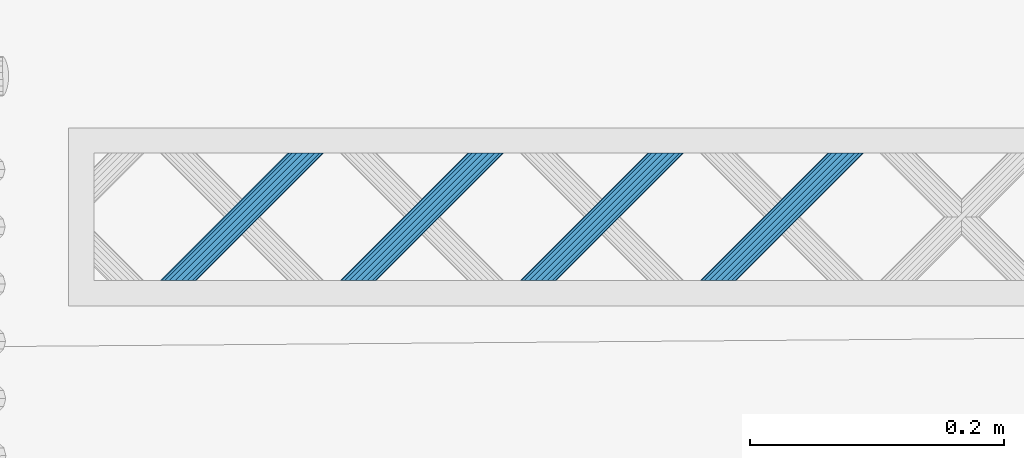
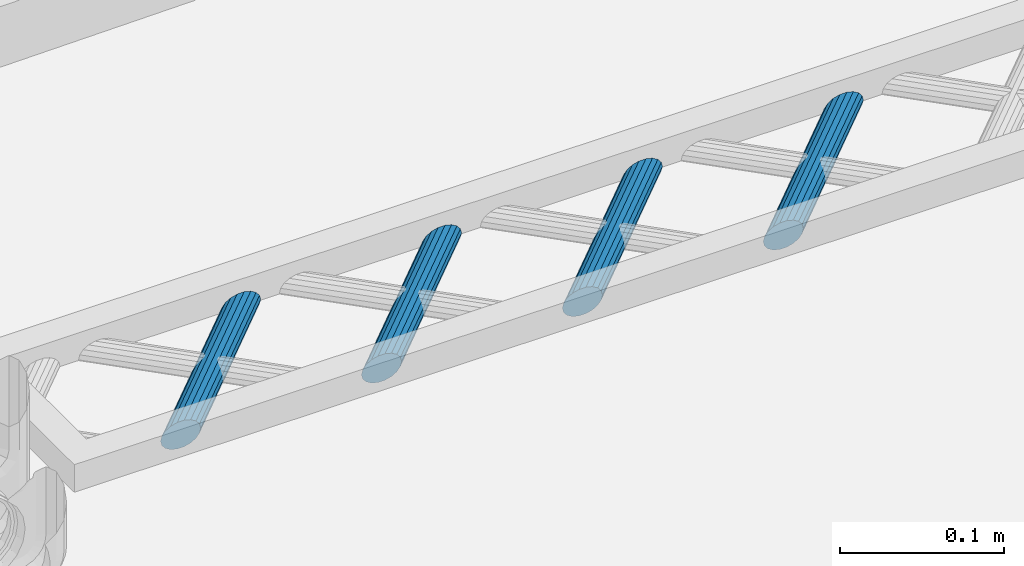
# One storey, part 65 of 133: 4 members, 1 element without a shape of its own.
"""IFC2X3 building model written with IfcOpenShell, lengths in centimetres."""

from ifc_helpers import new_model, entity, si_unit, converted_unit, direction, frame, origin, origin_with_axes, place, context, subcontext, project, spatial, faceted_brep, material, type_object, element, aggregate, save


model = new_model("IFC2X3")

# Units and contexts
model_context = context("Model", 3, precision=0.0001, world=origin(), true_north=direction((0.225632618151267, 0.974212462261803, 0.0)))
body_context = subcontext(model_context, "Body", "Model", "MODEL_VIEW")
ifc_project = project(units=[si_unit("LENGTHUNIT", "METRE", prefix="CENTI"), si_unit("AREAUNIT", "SQUARE_METRE", prefix="CENTI"), si_unit("VOLUMEUNIT", "CUBIC_METRE", prefix="CENTI"), converted_unit("PLANEANGLEUNIT", "DEGREE", entity("IfcRatioMeasure", 0.0174532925), si_unit("PLANEANGLEUNIT", "RADIAN"), dimensions=[0, 0, 0, 0, 0, 0, 0])], contexts=[model_context])

# Site, building, storey
site_placement = place(None, origin_with_axes())
site = spatial("IfcSite", under=ifc_project, at=site_placement, Name="Default Site", CompositionType="ELEMENT")
building_placement = place(site_placement, origin_with_axes())
building = spatial("IfcBuilding", under=site, at=building_placement, Name="Default Building", CompositionType="ELEMENT")
storey_placement = place(building_placement, frame((0.0, 0.0, -291.400371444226), z_axis=(0.0, 0.0, 1.0), x_axis=(1.0, 0.0, 0.0)))
storey = spatial("IfcBuildingStorey", under=building, at=storey_placement, Name="Rez-de-Jardin", CompositionType="ELEMENT", Elevation=-291.400371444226)

# Assembly, members
building_element_proxy_type = type_object("IfcBuildingElementProxyType", Name="Type Object", PredefinedType="NOTDEFINED")
assembly_placement = place(storey_placement, frame((-251.995147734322, 552.177521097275, 0.0), z_axis=(0.0, 1.0, -2.38697950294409e-15), x_axis=(1.0, 0.0, 0.0)))
assembly = element("IfcElementAssembly", 1, at=assembly_placement, inside=storey, type_object=building_element_proxy_type, Name="Panneau 92047", ObjectType="Precast panel", PredefinedType="USERDEFINED")
ifc_material = material(Name="Aluminium satiné")
member_1_placement = place(assembly_placement, frame((19.9735864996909, 0.342020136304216, 11.9999997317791), z_axis=(1.16937634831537e-15, -1.43218776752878e-15, 1.0), x_axis=(0.632455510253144, -0.774596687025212, -1.84894641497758e-15)))
member_1 = element("IfcMember", 2, at=member_1_placement, material=ifc_material, Name="4294966753", context=body_context, shape_type="Brep", body=[
    faceted_brep([(2.35922392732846e-14, -5.82867087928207e-14, 2.91433543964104e-14), (-0.388289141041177, -5.82867087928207e-14, 2.84254285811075e-14), (-0.799165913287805, -0.15024930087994, 2.76657394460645e-14), (-1.18307196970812, -0.43262487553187, 2.6955917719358e-14), (-1.49370326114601, -0.813068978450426, 2.63815771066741e-14), (-1.69359245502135, -1.24569368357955, 2.60119926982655e-14), (-1.75863072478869, -1.67831892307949, 2.58917404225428e-14), (-1.68097287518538, -2.05876302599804, 2.60353256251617e-14), (-1.46998625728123, -2.34113956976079, 2.64254285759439e-14), (-1.15111754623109, -2.49138806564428, 2.70149997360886e-14), (-0.762828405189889, -2.49138806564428, 2.77329255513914e-14), (-0.351951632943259, -2.3411387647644, 2.84926146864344e-14), (0.03195442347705, -2.05876319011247, 2.92024364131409e-14), (0.342585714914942, -1.67831908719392, 2.97767770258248e-14), (0.542474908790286, -1.24569438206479, 3.01463614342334e-14), (0.607513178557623, -0.813069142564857, 3.02666137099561e-14), (0.529855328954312, -0.432625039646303, 3.01230285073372e-14), (0.318868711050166, -0.150248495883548, 2.9732925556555e-14), (-6.00568648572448, -7.89621548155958, -9.99999977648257), (-5.79469939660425, -8.17859144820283, -9.99999977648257), (-5.71704154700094, -8.55903555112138, -9.99999977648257), (-5.78207981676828, -8.99166079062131, -9.99999977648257), (-5.98196901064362, -9.42428549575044, -9.99999977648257), (-6.29260030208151, -9.804729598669, -9.99999977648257), (-6.6765068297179, -10.0871057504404, -9.99999977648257), (-7.08738360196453, -10.2373550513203, -9.99999977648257), (-7.47567274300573, -10.2373550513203, -9.99999977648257), (-7.7945409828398, -10.0871059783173, -9.99999977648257), (-8.00552807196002, -9.80473001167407, -9.99999977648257), (-8.08318592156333, -9.42428590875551, -9.99999977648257), (-8.01814765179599, -8.99166066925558, -9.99999977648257), (-7.81825798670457, -8.55903538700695, -9.99999977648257), (-7.50762669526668, -8.17859128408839, -9.99999977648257), (-7.12372063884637, -7.89621570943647, -9.99999977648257), (-6.71284386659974, -7.74596640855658, -9.99999977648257), (-6.32455472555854, -7.74596640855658, -9.99999977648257), (0.318868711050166, -0.150248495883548, 2.91433543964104e-14), (0.529855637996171, -0.432624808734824, -3.74318464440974e-07), (-5.79469923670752, -8.17859132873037, -9.99999997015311), (-6.00568633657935, -7.89621537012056, -9.99999995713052), (0.529855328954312, -0.432625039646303, 2.91433543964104e-14), (0.607513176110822, -0.813069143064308, 1.93439639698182e-09), (-5.71704172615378, -8.55903558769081, -9.99999963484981), (-5.79469957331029, -8.17859148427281, -9.99999963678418), (0.607513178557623, -0.813069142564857, 3.05311331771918e-14), (0.542475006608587, -1.24569439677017, -5.04749520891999e-08), (-5.78207986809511, -8.99166078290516, -9.99999974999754), (-5.71704169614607, -8.55903552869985, -9.99999969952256), (0.542474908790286, -1.24569438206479, 2.91433543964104e-14), (0.342585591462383, -1.67831903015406, 3.38953946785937e-08), (-5.98196921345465, -9.4242854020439, -9.9999997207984), (-5.78207989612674, -8.99166075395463, -9.99999975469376), (0.342585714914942, -1.67831908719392, 2.91433543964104e-14), (0.0319544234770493, -2.05876319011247, 2.91433543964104e-14), (0.03195442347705, -2.05876319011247, 2.91433543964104e-14), (-0.351951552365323, -2.34113887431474, 3.3895392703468e-08), (-6.67650680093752, -10.087105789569, -9.99999976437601), (-6.29260025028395, -9.80472966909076, -9.99999975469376), (-0.351951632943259, -2.3411387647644, 2.77555756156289e-14), (-0.76282843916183, -2.49138797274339, -5.04749531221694e-08), (-7.08738368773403, -10.2373548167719, -9.99999990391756), (-6.67650688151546, -10.087105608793, -9.99999985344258), (-0.762828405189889, -2.49138806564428, 2.77555756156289e-14), (-1.15111754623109, -2.49138806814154, 1.93439265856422e-09), (-7.47567274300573, -10.2373548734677, -9.99999991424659), (-7.08738360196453, -10.2373548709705, -9.99999991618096), (-1.15111754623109, -2.49138806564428, 2.63677968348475e-14), (-1.4699860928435, -2.34113922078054, -3.74318467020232e-07), (-7.79454089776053, -10.0871057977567, -9.99999997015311), (-7.47567266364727, -10.2373548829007, -9.99999995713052), (-1.46998625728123, -2.34113956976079, 2.63677968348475e-14), (-1.68097318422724, -2.05876325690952, 3.74318519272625e-07), (-8.00552823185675, -9.80473013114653, -9.99999958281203), (-7.79454113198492, -10.0871060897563, -9.99999959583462), (-1.68097287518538, -2.05876302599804, 2.63677968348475e-14), (-1.75863072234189, -1.67831892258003, -1.93434067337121e-09), (-8.0831857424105, -9.42428587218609, -9.99999991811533), (-8.00552789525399, -9.80472997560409, -9.99999991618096), (-1.75863072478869, -1.67831892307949, 2.4980018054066e-14), (-1.69359255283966, -1.24569366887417, 5.04750065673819e-08), (-8.01814760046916, -8.99166067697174, -9.9999998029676), (-8.0831857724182, -9.42428593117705, -9.99999985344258), (-1.69359245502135, -1.24569368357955, 2.4980018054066e-14), (-1.49370313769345, -0.813069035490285, -3.3895338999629e-08), (-7.81825794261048, -8.55903540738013, -9.99999978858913), (-8.01814757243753, -8.99166070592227, -9.99999979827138), (-1.49370326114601, -0.813068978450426, 2.63677968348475e-14), (-1.18307196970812, -0.43262487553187, 2.63677968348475e-14), (-7.50762669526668, -8.1785912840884, -9.99999977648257), (-0.799165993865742, -0.150249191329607, -3.38953387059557e-08), (-7.12372066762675, -7.89621567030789, -9.99999978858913), (-7.50762664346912, -8.17859135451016, -9.99999975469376), (-0.799165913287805, -0.15024930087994, 2.63677968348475e-14), (-0.388289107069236, -9.29009488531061e-08, 5.04750084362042e-08), (-6.71284378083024, -7.74596664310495, -9.99999964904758), (-7.12372058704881, -7.89621585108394, -9.99999969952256), (-0.388289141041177, -5.82867087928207e-14, 2.77555756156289e-14), (2.3566541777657e-14, 2.4971978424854e-09, -1.9343371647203e-09), (-6.32455472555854, -7.74596658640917, -9.99999963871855), (-6.71284386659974, -7.74596658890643, -9.99999963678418), (0.318868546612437, -0.150248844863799, 3.74318522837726e-07), (-6.00568657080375, -7.89621566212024, -9.99999958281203), (-6.324554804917, -7.74596657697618, -9.99999959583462)], [[[0, 1, 2, 3, 4, 5, 6, 7, 8, 9, 10, 11, 12, 13, 14, 15, 16, 17]], [[18, 19, 20, 21, 22, 23, 24, 25, 26, 27, 28, 29, 30, 31, 32, 33, 34, 35]], [[36, 37, 38, 39]], [[40, 41, 42, 43]], [[44, 45, 46, 47]], [[48, 49, 50, 51]], [[52, 53, 23, 22]], [[54, 55, 56, 57]], [[58, 59, 60, 61]], [[62, 63, 64, 65]], [[66, 67, 68, 69]], [[70, 71, 72, 73]], [[74, 75, 76, 77]], [[78, 79, 80, 81]], [[82, 83, 84, 85]], [[86, 87, 88, 31]], [[87, 89, 90, 91]], [[92, 93, 94, 95]], [[96, 97, 98, 99]], [[0, 100, 101, 102]]]),
])
member_2_placement = place(assembly_placement, frame((34.1157227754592, 0.342020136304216, 11.9999997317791), z_axis=(1.16937776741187e-15, -1.43218081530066e-15, 1.0), x_axis=(0.632457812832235, -0.774594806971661, -1.84894192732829e-15)))
member_2 = element("IfcMember", 3, at=member_2_placement, material=ifc_material, Name="4294966752", context=body_context, shape_type="Brep", body=[
    faceted_brep([(4.44089209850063e-14, -2.77555756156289e-14, 4.57966997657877e-14), (-0.388290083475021, -3.33066907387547e-14, 4.50787739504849e-14), (-0.799166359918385, -0.150246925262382, 4.43190875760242e-14), (-1.18307325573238, -0.432621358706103, 4.36092660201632e-14), (-1.49370567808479, -0.813064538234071, 4.30349247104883e-14), (-1.69359615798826, -1.2456886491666, 4.2665338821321e-14), (-1.75863665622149, -1.67831484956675, 4.25450827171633e-14), (-1.68097899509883, -2.05875802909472, 4.26886672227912e-14), (-1.46999321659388, -2.34113520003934, 4.3078767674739e-14), (-1.15112495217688, -2.49138464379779, 4.3668336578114e-14), (-0.762836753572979, -2.49138695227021, 4.43862589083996e-14), (-0.351958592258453, -2.34113771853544, 4.51459487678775e-14), (0.0319483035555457, -2.05876328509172, 4.58557703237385e-14), (0.342580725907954, -1.67832010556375, 4.64301116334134e-14), (0.542471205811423, -1.24569599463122, 4.67996975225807e-14), (0.607509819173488, -0.813072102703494, 4.69199501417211e-14), (0.52985404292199, -0.432626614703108, 4.67763691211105e-14), (0.318868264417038, -0.150249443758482, 4.63862686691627e-14), (-6.00571042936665, -7.89619820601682, -9.99999977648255), (-5.7947246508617, -8.17857537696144, -9.99999977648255), (-5.71706793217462, -8.55901971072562, -9.99999977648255), (-5.78210654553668, -8.99164360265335, -9.99999977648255), (-5.98199796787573, -9.42426886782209, -9.99999977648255), (-6.29263039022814, -9.80471204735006, -9.99999977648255), (-6.67653728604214, -10.0870864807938, -9.99999977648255), (-7.08741450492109, -10.2373345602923, -9.99999977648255), (-7.47570364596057, -10.2373334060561, -9.99999977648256), (-7.79457096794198, -10.0870828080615, -9.99999977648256), (-8.00555768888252, -9.80470679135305, -9.99999977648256), (-8.08321440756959, -9.42426245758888, -9.99999977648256), (-8.01817485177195, -8.99163741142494, -9.99999977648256), (-7.81828437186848, -8.55901330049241, -9.99999977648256), (-7.50765194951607, -8.17857012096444, -9.99999977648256), (-7.12374411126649, -7.89619453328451, -9.99999977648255), (-6.71286783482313, -7.74594760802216, -9.99999977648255), (-6.32457869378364, -7.74594876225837, -9.99999977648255), (0.318868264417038, -0.150249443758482, 4.57966997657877e-14), (0.529854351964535, -0.432626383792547, -3.74318447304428e-07), (-5.79472389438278, -8.17857481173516, -10.0000006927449), (-6.00570998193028, -7.8961978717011, -10.0000003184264), (0.52985404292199, -0.432626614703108, 4.57966997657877e-14), (0.607510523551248, -0.813071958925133, -5.56859141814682e-07), (-5.717067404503, -8.55901960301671, -10.0000001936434), (-5.79472412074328, -8.17857526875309, -10.0000001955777), (0.607509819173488, -0.813072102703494, 4.71844785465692e-14), (0.542470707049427, -1.24569591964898, 2.57365111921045e-07), (-5.78210719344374, -8.99164350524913, -9.99999944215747), (-5.71706808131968, -8.55901968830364, -9.99999969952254), (0.542471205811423, -1.24569599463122, 4.57966997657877e-14), (0.342580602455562, -1.67832004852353, 3.38954117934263e-08), (-5.98199785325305, -9.42426892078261, -9.99999980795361), (-5.78210662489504, -8.99164356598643, -9.99999975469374), (0.342580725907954, -1.67832010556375, 4.57966997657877e-14), (0.0319483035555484, -2.05876328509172, 4.44089209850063e-14), (-5.98199796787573, -9.42426886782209, -9.99999977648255), (0.0319483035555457, -2.05876328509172, 4.44089209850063e-14), (-0.351958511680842, -2.34113782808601, 3.38954094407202e-08), (-6.67653736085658, -10.0870863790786, -9.99999980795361), (-6.2926305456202, -9.80471183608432, -9.99999984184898), (-0.351958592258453, -2.34113771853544, 4.44089209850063e-14), (-0.762836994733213, -2.49138629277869, -3.58314984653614e-07), (-7.08741469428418, -10.2373340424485, -10.0000000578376), (-6.67653744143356, -10.0870860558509, -10.0000000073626), (-0.762836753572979, -2.49138695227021, 4.44089209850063e-14), (-1.15112495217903, -2.49138536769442, 5.60727964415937e-07), (-7.47570364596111, -10.2373335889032, -9.9999996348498), (-7.08741450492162, -10.2373347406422, -9.99999963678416), (-1.15112495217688, -2.49138464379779, 4.30211422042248e-14), (-1.46999305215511, -2.34113485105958, -3.74318450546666e-07), (-7.79457088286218, -10.0870826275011, -9.99999997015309), (-7.47570340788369, -10.2373329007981, -10.0000003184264), (-1.46999321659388, -2.34113520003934, 4.16333634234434e-14), (-1.68097930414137, -2.05875826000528, 3.74318534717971e-07), (-8.00555755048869, -9.80470668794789, -9.99999994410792), (-7.79457111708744, -10.0870829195, -9.9999995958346), (-1.68097899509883, -2.05875802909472, 4.30211422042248e-14), (-1.75863594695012, -1.6783147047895, -5.60727878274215e-07), (-8.08321387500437, -9.42426234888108, -10.0000001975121), (-8.0055571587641, -9.8047066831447, -10.0000001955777), (-1.75863665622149, -1.67831484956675, 4.16333634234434e-14), (-1.69359685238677, -1.24568854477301, 3.58315069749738e-07), (-8.01817509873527, -8.99163737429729, -9.99999964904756), (-8.08321455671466, -9.4242624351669, -9.99999969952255), (-1.69359615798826, -1.2456886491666, 4.16333634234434e-14), (-1.4937055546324, -0.813064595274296, -3.38953237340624e-08), (-7.81828401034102, -8.55901346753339, -9.99999987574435), (-8.01817461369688, -8.99163752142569, -9.99999984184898), (-1.49370567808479, -0.813064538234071, 4.16333634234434e-14), (-1.18307325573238, -0.432621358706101, 4.30211422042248e-14), (-1.18307325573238, -0.432621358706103, 4.30211422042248e-14), (-0.799166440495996, -0.15024681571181, -3.38953216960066e-08), (-7.12374414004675, -7.89619449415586, -9.99999978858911), (-7.50765210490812, -8.1785699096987, -9.99999984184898), (-0.799166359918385, -0.150246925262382, 4.30211422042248e-14), (-0.388290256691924, 4.73689498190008e-07, -2.5736502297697e-07), (-6.71286795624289, -7.74594727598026, -9.99999995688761), (-7.12374405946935, -7.89619467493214, -9.99999969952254), (-0.388290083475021, -3.33066907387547e-14, 4.44089209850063e-14), (-2.08521643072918e-12, -7.18902141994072e-07, 5.56859237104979e-07), (-6.32457869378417, -7.74594894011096, -9.99999963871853), (-6.71286783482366, -7.74594778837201, -9.99999963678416), (0.318868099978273, -0.150249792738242, 3.74318537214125e-07), (-6.00571035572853, -7.89619804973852, -9.99999994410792), (-6.32457845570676, -7.7459482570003, -10.0000003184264)], [[[0, 1, 2, 3, 4, 5, 6, 7, 8, 9, 10, 11, 12, 13, 14, 15, 16, 17]], [[18, 19, 20, 21, 22, 23, 24, 25, 26, 27, 28, 29, 30, 31, 32, 33, 34, 35]], [[36, 37, 38, 39]], [[40, 41, 42, 43]], [[44, 45, 46, 47]], [[48, 49, 50, 51]], [[52, 53, 23, 54]], [[55, 56, 57, 58]], [[59, 60, 61, 62]], [[63, 64, 65, 66]], [[67, 68, 69, 70]], [[71, 72, 73, 74]], [[75, 76, 77, 78]], [[79, 80, 81, 82]], [[83, 84, 85, 86]], [[87, 88, 32, 31]], [[89, 90, 91, 92]], [[93, 94, 95, 96]], [[97, 98, 99, 100]], [[0, 101, 102, 103]]]),
])
member_3_placement = place(assembly_placement, frame((48.2578575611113, 0.342020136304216, 11.9999997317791), z_axis=(1.16937492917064e-15, -1.4321947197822e-15, 1.0), x_axis=(0.632453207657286, -0.774598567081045, -1.84895090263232e-15)))
member_3 = element("IfcMember", 4, at=member_3_placement, material=ifc_material, Name="4294966751", context=body_context, shape_type="Brep", body=[
    faceted_brep([(8.32667268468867e-14, -7.21644966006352e-14, -3.19189119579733e-14), (-0.388288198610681, -6.66133814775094e-14, -3.26368377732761e-14), (-0.799165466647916, -0.15025167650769, -3.33965296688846e-14), (-1.18307068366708, -0.432628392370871, -3.41063515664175e-14), (-1.49370084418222, -0.813073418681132, -3.46806914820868e-14), (-1.69358875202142, -1.24569871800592, -3.50502744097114e-14), (-1.75862479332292, -1.67832299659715, -3.51705228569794e-14), (-1.68096675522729, -2.05876802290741, -3.50269369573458e-14), (-1.46997929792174, -2.34114393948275, -3.46368315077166e-14), (-1.1511101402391, -2.49139148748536, -3.40472580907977e-14), (-0.762820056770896, -2.49138917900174, -3.3329328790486e-14), (-0.351944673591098, -2.34113981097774, -3.25696403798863e-14), (0.0319605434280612, -2.05876309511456, -3.18598184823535e-14), (0.342590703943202, -1.6783180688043, -3.12854785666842e-14), (0.54247861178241, -1.24569276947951, -3.09158956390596e-14), (0.607516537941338, -0.813066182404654, -3.07956437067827e-14), (0.529856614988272, -0.432623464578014, -3.09392330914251e-14), (0.318869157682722, -0.150247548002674, -3.13293385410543e-14), (-6.00566254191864, -7.89623275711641, -9.99999977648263), (-5.79467508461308, -8.17860867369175, -9.99999977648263), (-5.71701516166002, -8.55905139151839, -9.99999977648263), (-5.78205308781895, -8.99167797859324, -9.99999977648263), (-5.98194099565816, -9.42430327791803, -9.99999977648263), (-6.2925711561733, -9.80474830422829, -9.99999977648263), (-6.67647637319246, -10.0871250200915, -9.99999977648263), (-7.08735364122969, -10.2373766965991, -9.99999977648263), (-7.47564183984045, -10.2373766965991, -9.99999977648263), (-7.79451099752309, -10.0871291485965, -9.99999977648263), (-8.00549845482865, -9.80475323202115, -9.99999977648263), (-8.08315837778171, -9.42431051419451, -9.99999977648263), (-8.01812045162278, -8.99168392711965, -9.99999977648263), (-7.81823254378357, -8.55905862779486, -9.99999977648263), (-7.50760238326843, -8.17861360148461, -9.99999977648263), (-7.12369716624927, -7.89623688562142, -9.99999977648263), (-6.71281989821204, -7.7459852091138, -9.99999977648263), (-6.32453169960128, -7.74598520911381, -9.99999977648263), (0.318869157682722, -0.150247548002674, -3.19189119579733e-14), (0.529856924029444, -0.432623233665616, -3.7431852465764e-07), (-5.79467492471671, -8.17860855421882, -9.99999997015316), (-6.00566269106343, -7.89623286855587, -9.99999959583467), (0.529856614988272, -0.432623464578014, -3.19189119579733e-14), (0.607515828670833, -0.813066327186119, 5.607278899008e-07), (-5.71701604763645, -8.55905157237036, -9.99999907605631), (-5.79467526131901, -8.17860870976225, -9.99999963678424), (0.607516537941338, -0.813066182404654, -3.19189119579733e-14), (0.542479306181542, -1.24569287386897, -3.58315060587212e-07), (-5.78205254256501, -8.99167806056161, -10.0000000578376), (-5.71701531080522, -8.5590513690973, -9.99999969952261), (0.54247861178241, -1.24569276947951, -3.19189119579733e-14), (0.342590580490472, -1.6783180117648, 3.38953340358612e-08), (-5.98194119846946, -9.42430318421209, -9.99999972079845), (-5.78205316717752, -8.99167794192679, -9.99999975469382), (0.342590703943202, -1.6783180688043, -3.19189119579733e-14), (0.0319605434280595, -2.05876309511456, -3.33066907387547e-14), (0.0319605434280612, -2.05876309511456, -3.33066907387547e-14), (-0.351944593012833, -2.34113992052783, 3.38953326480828e-08), (-6.67647624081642, -10.0871252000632, -9.99999972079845), (-6.29257110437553, -9.8047483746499, -9.99999975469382), (-0.351944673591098, -2.34113981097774, -3.33066907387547e-14), (-0.762819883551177, -2.49138965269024, 2.57365033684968e-07), (-7.08735383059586, -10.2373761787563, -10.0000000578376), (-6.67647632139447, -10.0871251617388, -9.99999969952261), (-0.762820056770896, -2.49138917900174, -3.33066907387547e-14), (-1.15111014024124, -2.49139076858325, -5.56859223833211e-07), (-7.47564183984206, -10.2373761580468, -10.0000001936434), (-7.08735364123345, -10.2373754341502, -10.0000007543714), (-1.1511101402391, -2.49139148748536, -3.60822483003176e-14), (-1.46997913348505, -2.34114359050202, -3.74318528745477e-07), (-7.79451091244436, -10.0871289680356, -9.99999997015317), (-7.47564191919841, -10.2373768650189, -9.99999959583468), (-1.46997929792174, -2.34114393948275, -3.60822483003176e-14), (-1.68096706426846, -2.05876825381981, 3.7431845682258e-07), (-8.00549891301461, -9.80475357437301, -9.99999922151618), (-7.79451114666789, -10.087129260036, -9.99999959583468), (-1.68096675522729, -2.05876802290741, -3.60822483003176e-14), (-1.75862549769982, -1.6783231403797, 5.56859151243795e-07), (-8.08315784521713, -9.42431040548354, -10.0000001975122), (-8.00549863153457, -9.80475326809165, -9.99999963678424), (-1.75862479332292, -1.67832299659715, -3.60822483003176e-14), (-1.69358825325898, -1.2456987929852, -2.57365100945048e-07), (-8.01812010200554, -8.99168397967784, -9.99999995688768), (-8.08315733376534, -9.42431067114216, -10.0000003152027), (-1.69358875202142, -1.24569871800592, -3.60822483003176e-14), (-1.49370072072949, -0.813073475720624, -3.38954020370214e-08), (-7.81823249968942, -8.55905864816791, -9.99999978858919), (-8.01812053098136, -8.99168389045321, -9.99999975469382), (-1.49370084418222, -0.813073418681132, -3.60822483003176e-14), (-1.18307068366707, -0.432628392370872, -3.46944695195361e-14), (-1.18307068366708, -0.432628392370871, -3.46944695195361e-14), (-0.799165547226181, -0.150251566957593, -3.38954007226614e-08), (-7.12369719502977, -7.89623684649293, -9.99999978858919), (-7.50760233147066, -8.17861367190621, -9.99999975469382), (-0.799165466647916, -0.15025167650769, -3.46944695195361e-14), (-0.388287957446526, -6.59490149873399e-07, 3.58314995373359e-07), (-6.7128196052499, -7.74598601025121, -9.99999934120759), (-7.12369711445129, -7.89623702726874, -9.99999969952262), (-0.388288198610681, -6.66133814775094e-14, -3.46944695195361e-14), (-2.07606268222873e-12, 7.23896554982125e-07, -5.60727956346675e-07), (-6.3245316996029, -7.74598466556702, -10.0000001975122), (-6.7128198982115, -7.74598538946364, -9.99999963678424), (0.318868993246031, -0.150247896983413, 3.74318460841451e-07), (-6.00566278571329, -7.89623327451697, -9.99999922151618), (-6.32453177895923, -7.74598537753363, -9.99999959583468)], [[[0, 1, 2, 3, 4, 5, 6, 7, 8, 9, 10, 11, 12, 13, 14, 15, 16, 17]], [[18, 19, 20, 21, 22, 23, 24, 25, 26, 27, 28, 29, 30, 31, 32, 33, 34, 35]], [[36, 37, 38, 39]], [[40, 41, 42, 43]], [[44, 45, 46, 47]], [[48, 49, 50, 51]], [[52, 53, 23, 22]], [[54, 55, 56, 57]], [[58, 59, 60, 61]], [[62, 63, 64, 65]], [[66, 67, 68, 69]], [[70, 71, 72, 73]], [[74, 75, 76, 77]], [[78, 79, 80, 81]], [[82, 83, 84, 85]], [[86, 87, 32, 31]], [[88, 89, 90, 91]], [[92, 93, 94, 95]], [[96, 97, 98, 99]], [[0, 100, 101, 102]]]),
])
member_4_placement = place(assembly_placement, frame((62.3999953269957, 0.342020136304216, 11.9999997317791), z_axis=(1.16937776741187e-15, -1.43218081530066e-15, 1.0), x_axis=(0.632457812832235, -0.774594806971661, -1.84894192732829e-15)))
member_4 = element("IfcMember", 5, at=member_4_placement, material=ifc_material, Name="4294966750", context=body_context, shape_type="Brep", body=[
    faceted_brep([(1.66533453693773e-14, -3.33066907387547e-14, 7.91033905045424e-14), (-0.388290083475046, -3.33066907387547e-14, 7.83854646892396e-14), (-0.799166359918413, -0.150246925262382, 7.76257783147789e-14), (-1.18307325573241, -0.432621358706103, 7.69159567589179e-14), (-1.49370756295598, -0.813066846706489, 7.63416119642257e-14), (-1.69359804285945, -1.24569095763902, 7.59720260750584e-14), (-1.75863665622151, -1.67831484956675, 7.5851773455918e-14), (-1.68098087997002, -2.05876033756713, 7.59953544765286e-14), (-1.46999510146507, -2.34113750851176, 7.63854549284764e-14), (-1.15112683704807, -2.49138695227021, 7.69750238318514e-14), (-0.762836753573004, -2.49138695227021, 7.76929496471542e-14), (-0.351960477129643, -2.34114002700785, 7.84526360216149e-14), (0.0319464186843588, -2.05876559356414, 7.91624575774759e-14), (0.342580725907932, -1.67832010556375, 7.97368023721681e-14), (0.542471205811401, -1.24569599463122, 8.01063882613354e-14), (0.607509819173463, -0.813072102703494, 8.02266408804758e-14), (0.529854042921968, -0.432626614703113, 8.00830598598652e-14), (0.318868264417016, -0.150249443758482, 7.96929594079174e-14), (-6.00571137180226, -7.89619936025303, -9.99999977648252), (-5.79472559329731, -8.17857653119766, -9.99999977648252), (-5.71706981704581, -8.55902201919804, -9.99999977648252), (-5.78210843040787, -8.99164591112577, -9.99999977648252), (-5.98199891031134, -9.42427002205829, -9.99999977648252), (-6.29262944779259, -9.80471089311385, -9.99999977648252), (-6.67653634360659, -10.0870853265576, -9.99999977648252), (-7.08741450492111, -10.2373345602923, -9.99999977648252), (-7.47570458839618, -10.2373345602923, -9.99999977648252), (-7.79457285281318, -10.0870851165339, -9.99999977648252), (-8.00555863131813, -9.80470794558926, -9.99999977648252), (-8.08321440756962, -9.42426245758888, -9.99999977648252), (-8.01817390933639, -8.99163625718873, -9.99999977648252), (-7.81828342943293, -8.5590121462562, -9.99999977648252), (-7.50765289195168, -8.17857127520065, -9.99999977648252), (-7.12374599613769, -7.89619684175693, -9.99999977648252), (-6.71286971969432, -7.74594991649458, -9.99999977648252), (-6.32457963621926, -7.74594991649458, -9.99999977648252), (0.318868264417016, -0.150249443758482, 7.91033905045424e-14), (0.529854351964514, -0.432626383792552, -3.74318415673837e-07), (-5.79472424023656, -8.17857552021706, -10.0000014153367), (-6.00571032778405, -7.896198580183, -10.0000010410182), (0.529854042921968, -0.432626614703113, 7.91033905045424e-14), (0.607510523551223, -0.813071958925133, -5.56859110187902e-07), (-5.71706787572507, -8.55902162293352, -10.0000013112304), (-5.79472435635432, -8.1785762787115, -10.0000007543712), (0.607509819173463, -0.813072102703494, 7.91033905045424e-14), (0.542470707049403, -1.24569591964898, 2.57365146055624e-07), (-5.78210788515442, -8.99164599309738, -10.0000000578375), (-5.71706877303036, -8.55902217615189, -10.0000003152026), (0.542471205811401, -1.24569599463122, 7.91033905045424e-14), (0.34258060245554, -1.67832004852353, 3.38954450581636e-08), (-5.98199847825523, -9.42427022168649, -9.99999989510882), (-5.78210787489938, -8.99164616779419, -9.99999992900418), (0.342580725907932, -1.67832010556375, 7.91033905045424e-14), (0.0319464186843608, -2.05876559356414, 7.7715611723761e-14), (-6.29262944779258, -9.80471089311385, -9.99999977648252), (0.0319464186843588, -2.05876559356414, 7.7715611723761e-14), (-0.351960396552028, -2.34114013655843, 3.38954442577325e-08), (-6.6765357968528, -10.0870860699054, -9.99999954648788), (-6.29262898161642, -9.80471152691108, -9.99999958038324), (-0.351960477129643, -2.34114002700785, 7.7715611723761e-14), (-0.762836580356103, -2.49138742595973, 2.5736514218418e-07), (-7.08741427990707, -10.2373351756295, -9.99999944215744), (-6.67653587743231, -10.0870866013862, -9.99999908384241), (-0.762836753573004, -2.49138695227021, 7.7715611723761e-14), (-1.15112683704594, -2.4913862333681, -5.56859113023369e-07), (-7.47570458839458, -10.2373340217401, -10.0000001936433), (-7.08741450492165, -10.2373347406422, -9.99999963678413), (-1.15112683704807, -2.49138695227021, 7.49400541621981e-14), (-1.4699949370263, -2.341137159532, -3.74318420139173e-07), (-7.79457276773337, -10.0870849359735, -9.99999997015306), (-7.47570466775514, -10.2373347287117, -9.99999959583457), (-1.46999510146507, -2.34113750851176, 7.49400541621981e-14), (-1.68098118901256, -2.05876056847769, 3.74318569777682e-07), (-8.00555908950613, -9.8047082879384, -9.99999922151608), (-7.79457300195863, -10.0870852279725, -9.99999959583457), (-1.68098087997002, -2.05876033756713, 7.49400541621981e-14), (-1.75863736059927, -1.67831499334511, 5.56859264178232e-07), (-8.08321528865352, -9.42426263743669, -9.99999907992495), (-8.00555880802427, -9.80470798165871, -9.99999963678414), (-1.75863665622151, -1.67831484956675, 7.49400541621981e-14), (-1.69359754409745, -1.24569103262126, -2.57364990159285e-07), (-8.01817475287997, -8.99163613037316, -9.99999934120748), (-8.08321455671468, -9.4242624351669, -9.99999969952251), (-1.69359804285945, -1.24569095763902, 7.49400541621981e-14), (-1.49370743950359, -0.813066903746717, -3.3895291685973e-08), (-7.81828402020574, -8.55901187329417, -9.99999961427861), (-8.0181746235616, -8.99163592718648, -9.99999958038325), (-1.49370756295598, -0.813066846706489, 7.49400541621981e-14), (-1.18307325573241, -0.432621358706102, 7.63278329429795e-14), (-7.81828342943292, -8.5590121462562, -9.99999977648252), (-1.18307325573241, -0.432621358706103, 7.63278329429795e-14), (-0.799166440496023, -0.15024681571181, -3.38952883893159e-08), (-7.12374643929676, -7.89619623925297, -9.99999996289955), (-7.50765325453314, -8.17857078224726, -9.99999992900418), (-0.799166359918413, -0.150246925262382, 7.63278329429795e-14), (-0.388290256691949, 4.73689498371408e-07, -2.57364991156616e-07), (-6.71287025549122, -7.74594845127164, -10.0000005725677), (-7.12374635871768, -7.89619585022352, -10.0000003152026), (-0.388290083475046, -3.33066907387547e-14, 7.63278329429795e-14), (-2.11297199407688e-12, -7.1890214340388e-07, 5.56859267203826e-07), (-6.32457963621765, -7.7459493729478, -10.000000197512), (-6.71286971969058, -7.74594865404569, -10.0000007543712), (0.318868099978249, -0.150249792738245, 3.74318574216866e-07), (-6.0057109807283, -7.89619853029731, -10.0000006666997), (-6.32457908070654, -7.74594873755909, -10.0000010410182)], [[[0, 1, 2, 3, 4, 5, 6, 7, 8, 9, 10, 11, 12, 13, 14, 15, 16, 17]], [[18, 19, 20, 21, 22, 23, 24, 25, 26, 27, 28, 29, 30, 31, 32, 33, 34, 35]], [[36, 37, 38, 39]], [[40, 41, 42, 43]], [[44, 45, 46, 47]], [[48, 49, 50, 51]], [[52, 53, 54, 22]], [[55, 56, 57, 58]], [[59, 60, 61, 62]], [[63, 64, 65, 66]], [[67, 68, 69, 70]], [[71, 72, 73, 74]], [[75, 76, 77, 78]], [[79, 80, 81, 82]], [[83, 84, 85, 86]], [[87, 88, 32, 89]], [[90, 91, 92, 93]], [[94, 95, 96, 97]], [[98, 99, 100, 101]], [[0, 102, 103, 104]]]),
])
aggregate(assembly, [member_1, member_2, member_3, member_4])

save(model, "model.ifc")
